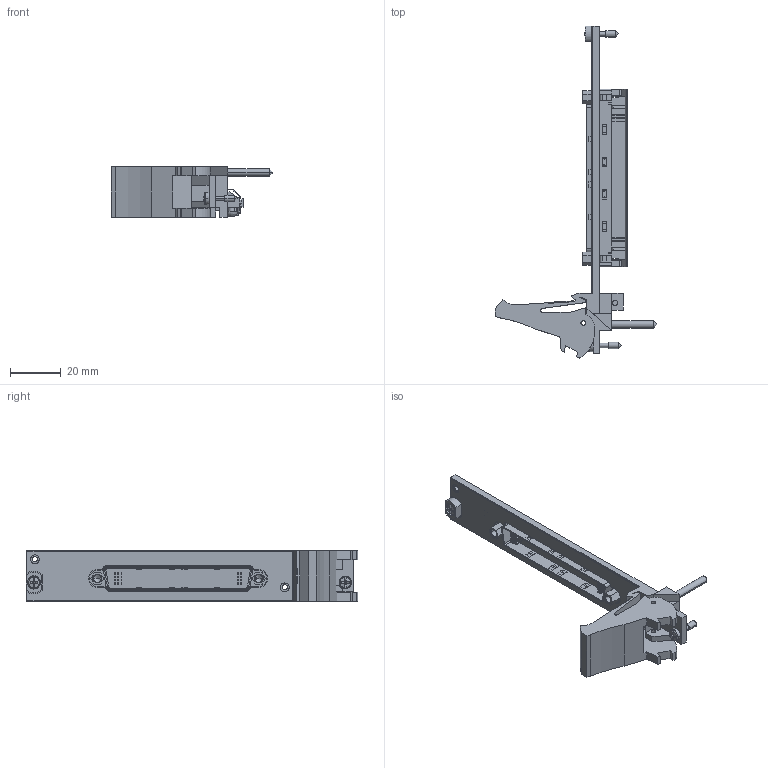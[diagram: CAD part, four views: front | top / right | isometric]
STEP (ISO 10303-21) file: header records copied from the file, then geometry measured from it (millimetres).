
FILE_DESCRIPTION((''),'2;1');
FILE_NAME('CU_PXI-2576','2009-09-17T',('jjorden'),(''),'PRO/ENGINEER BY PARAMETRIC TECHNOLOGY CORPORATION, 2006080','PRO/ENGINEER BY PARAMETRIC TECHNOLOGY CORPORATION, 2006080','');
FILE_SCHEMA(('CONFIG_CONTROL_DESIGN'));
Length unit declared in the file: inch
Products named in the file (1): CU_PXI-2576
Bounding box: 63.53 x 130.5 x 20.02 mm (x, y, z)
Volume: 17774.2 mm3; surface area: 15935.9 mm2
Topology: 1 solids, 1 shells, 1025 faces, 2694 edges, 1748 vertices
Faces by surface type: plane 782, cylinder 191, cone 32, sphere 8, torus 6, bspline 6
Entity records: 31738 total; most frequent: CARTESIAN_POINT 5977, ORIENTED_EDGE 5364, DIRECTION 5169, EDGE_CURVE 2682, VECTOR 2169, LINE 2169, VERTEX_POINT 1767, AXIS2_PLACEMENT_3D 1500
